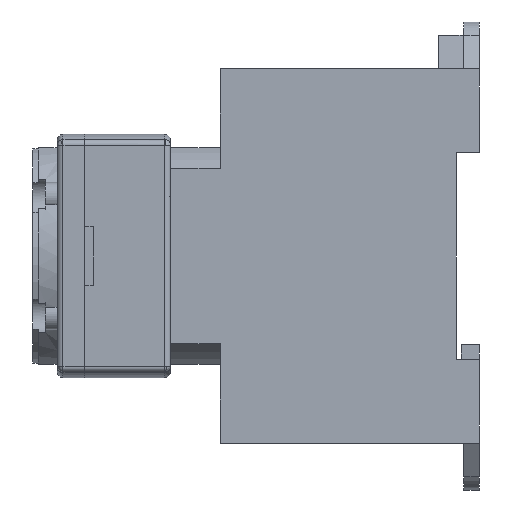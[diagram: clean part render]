
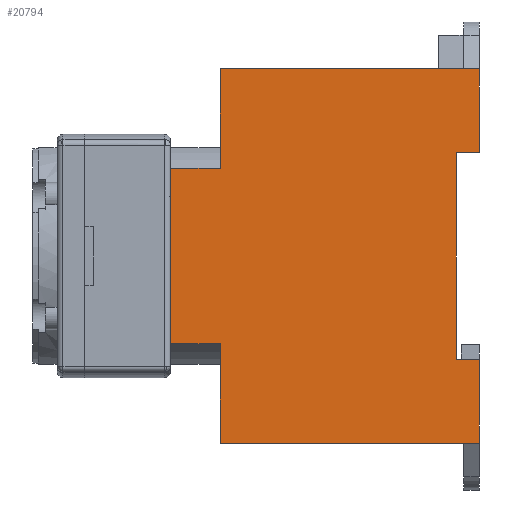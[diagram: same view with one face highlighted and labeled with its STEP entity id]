
A CAD part, left-side view. The second image highlights one B-rep face of the part: STEP entity #20794.
In plain terms, the highlighted planar face has unit normal (-1, 0, 0).
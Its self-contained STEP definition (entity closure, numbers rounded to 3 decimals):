
#1169 = ORIENTED_EDGE ( 'NONE', *, *, #10406, .F. ) ;
#1366 = VECTOR ( 'NONE', #29082, 1000. ) ;
#1668 = ORIENTED_EDGE ( 'NONE', *, *, #23184, .F. ) ;
#2636 = CARTESIAN_POINT ( 'NONE',  ( -24., 44.3, 32. ) ) ;
#3328 = LINE ( 'NONE', #19402, #9773 ) ;
#3335 = CARTESIAN_POINT ( 'NONE',  ( -24., 52.8, -15. ) ) ;
#4092 = CARTESIAN_POINT ( 'NONE',  ( -24., 0., -17.65 ) ) ;
#4868 = VECTOR ( 'NONE', #22422, 1000. ) ;
#5850 = CARTESIAN_POINT ( 'NONE',  ( -24., 44.3, -17.65 ) ) ;
#6578 = LINE ( 'NONE', #22113, #25263 ) ;
#6742 = DIRECTION ( 'NONE',  ( 1., 0., 0. ) ) ;
#6786 = VERTEX_POINT ( 'NONE', #29339 ) ;
#7037 = ORIENTED_EDGE ( 'NONE', *, *, #31616, .F. ) ;
#7297 = EDGE_LOOP ( 'NONE', ( #22907, #10786, #16658, #1668, #7037, #22892, #19574, #14926, #18192, #19597, #18165, #1169 ) ) ;
#7334 = EDGE_CURVE ( 'NONE', #20384, #6786, #29407, .T. ) ;
#7383 = LINE ( 'NONE', #21961, #26070 ) ;
#7641 = AXIS2_PLACEMENT_3D ( 'NONE', #23694, #6742, #23811 ) ;
#7714 = DIRECTION ( 'NONE',  ( 0., -1., 0. ) ) ;
#8288 = VERTEX_POINT ( 'NONE', #24250 ) ;
#8298 = VERTEX_POINT ( 'NONE', #23571 ) ;
#8705 = VERTEX_POINT ( 'NONE', #23839 ) ;
#9276 = DIRECTION ( 'NONE',  ( 0., 0., -1. ) ) ;
#9773 = VECTOR ( 'NONE', #21838, 1000. ) ;
#10174 = CARTESIAN_POINT ( 'NONE',  ( -24., 0., -32. ) ) ;
#10406 = EDGE_CURVE ( 'NONE', #8705, #15689, #3328, .T. ) ;
#10786 = ORIENTED_EDGE ( 'NONE', *, *, #21453, .F. ) ;
#11603 = EDGE_CURVE ( 'NONE', #20743, #8705, #23053, .T. ) ;
#11680 = VERTEX_POINT ( 'NONE', #4092 ) ;
#11891 = VERTEX_POINT ( 'NONE', #10174 ) ;
#12858 = LINE ( 'NONE', #18484, #4868 ) ;
#12859 = LINE ( 'NONE', #18139, #31544 ) ;
#12871 = EDGE_CURVE ( 'NONE', #13708, #8288, #6578, .T. ) ;
#13708 = VERTEX_POINT ( 'NONE', #19146 ) ;
#13955 = DIRECTION ( 'NONE',  ( 0., -1., 0. ) ) ;
#14502 = CARTESIAN_POINT ( 'NONE',  ( -24., 44.3, 32. ) ) ;
#14926 = ORIENTED_EDGE ( 'NONE', *, *, #12871, .F. ) ;
#15650 = DIRECTION ( 'NONE',  ( 0., 0., 1. ) ) ;
#15689 = VERTEX_POINT ( 'NONE', #28781 ) ;
#16575 = DIRECTION ( 'NONE',  ( 0., -1., 0. ) ) ;
#16615 = CARTESIAN_POINT ( 'NONE',  ( -24., 0., -32. ) ) ;
#16658 = ORIENTED_EDGE ( 'NONE', *, *, #7334, .F. ) ;
#16789 = VERTEX_POINT ( 'NONE', #3335 ) ;
#17135 = LINE ( 'NONE', #5850, #31605 ) ;
#17465 = EDGE_CURVE ( 'NONE', #15689, #11680, #17135, .T. ) ;
#18139 = CARTESIAN_POINT ( 'NONE',  ( -24., 52.8, -32. ) ) ;
#18165 = ORIENTED_EDGE ( 'NONE', *, *, #17465, .F. ) ;
#18192 = ORIENTED_EDGE ( 'NONE', *, *, #30511, .F. ) ;
#18484 = CARTESIAN_POINT ( 'NONE',  ( -24., 0., -32. ) ) ;
#18670 = DIRECTION ( 'NONE',  ( 0., 1., 0. ) ) ;
#18961 = LINE ( 'NONE', #16615, #25447 ) ;
#19069 = EDGE_CURVE ( 'NONE', #11680, #11891, #12858, .T. ) ;
#19146 = CARTESIAN_POINT ( 'NONE',  ( -24., 44.3, -32. ) ) ;
#19402 = CARTESIAN_POINT ( 'NONE',  ( -24., 4., -32. ) ) ;
#19527 = DIRECTION ( 'NONE',  ( 0., 1., 0. ) ) ;
#19574 = ORIENTED_EDGE ( 'NONE', *, *, #21343, .F. ) ;
#19597 = ORIENTED_EDGE ( 'NONE', *, *, #19069, .F. ) ;
#20384 = VERTEX_POINT ( 'NONE', #2636 ) ;
#20613 = VECTOR ( 'NONE', #13955, 1000. ) ;
#20743 = VERTEX_POINT ( 'NONE', #21148 ) ;
#20794 = ADVANCED_FACE ( 'NONE', ( #28540 ), #31056, .F. ) ;
#20819 = LINE ( 'NONE', #26590, #1366 ) ;
#21148 = CARTESIAN_POINT ( 'NONE',  ( -24., 0., 17.65 ) ) ;
#21200 = EDGE_CURVE ( 'NONE', #16789, #8298, #12859, .T. ) ;
#21239 = VECTOR ( 'NONE', #18670, 1000. ) ;
#21343 = EDGE_CURVE ( 'NONE', #8288, #16789, #28508, .T. ) ;
#21453 = EDGE_CURVE ( 'NONE', #6786, #20743, #18961, .T. ) ;
#21838 = DIRECTION ( 'NONE',  ( 0., 0., -1. ) ) ;
#21961 = CARTESIAN_POINT ( 'NONE',  ( -24., 44.3, -32. ) ) ;
#22113 = CARTESIAN_POINT ( 'NONE',  ( -24., 44.3, -32. ) ) ;
#22219 = VERTEX_POINT ( 'NONE', #29494 ) ;
#22330 = CARTESIAN_POINT ( 'NONE',  ( -24., 44.3, 15. ) ) ;
#22422 = DIRECTION ( 'NONE',  ( 0., 0., -1. ) ) ;
#22892 = ORIENTED_EDGE ( 'NONE', *, *, #21200, .F. ) ;
#22907 = ORIENTED_EDGE ( 'NONE', *, *, #11603, .F. ) ;
#23053 = LINE ( 'NONE', #23271, #28796 ) ;
#23184 = EDGE_CURVE ( 'NONE', #22219, #20384, #20819, .T. ) ;
#23271 = CARTESIAN_POINT ( 'NONE',  ( -24., 44.3, 17.65 ) ) ;
#23571 = CARTESIAN_POINT ( 'NONE',  ( -24., 52.8, 15. ) ) ;
#23694 = CARTESIAN_POINT ( 'NONE',  ( -24., 44.3, -32. ) ) ;
#23811 = DIRECTION ( 'NONE',  ( 0., 0., -1. ) ) ;
#23839 = CARTESIAN_POINT ( 'NONE',  ( -24., 4., 17.65 ) ) ;
#23951 = DIRECTION ( 'NONE',  ( 0., 1., 0. ) ) ;
#24250 = CARTESIAN_POINT ( 'NONE',  ( -24., 44.3, -15. ) ) ;
#25263 = VECTOR ( 'NONE', #28221, 1000. ) ;
#25447 = VECTOR ( 'NONE', #9276, 1000. ) ;
#26070 = VECTOR ( 'NONE', #19527, 1000. ) ;
#26590 = CARTESIAN_POINT ( 'NONE',  ( -24., 44.3, -32. ) ) ;
#28221 = DIRECTION ( 'NONE',  ( 0., 0., 1. ) ) ;
#28508 = LINE ( 'NONE', #30809, #21239 ) ;
#28540 = FACE_OUTER_BOUND ( 'NONE', #7297, .T. ) ;
#28679 = LINE ( 'NONE', #22330, #29459 ) ;
#28781 = CARTESIAN_POINT ( 'NONE',  ( -24., 4., -17.65 ) ) ;
#28796 = VECTOR ( 'NONE', #23951, 1000. ) ;
#29082 = DIRECTION ( 'NONE',  ( 0., 0., 1. ) ) ;
#29339 = CARTESIAN_POINT ( 'NONE',  ( -24., 0., 32. ) ) ;
#29407 = LINE ( 'NONE', #14502, #20613 ) ;
#29459 = VECTOR ( 'NONE', #7714, 1000. ) ;
#29494 = CARTESIAN_POINT ( 'NONE',  ( -24., 44.3, 15. ) ) ;
#30511 = EDGE_CURVE ( 'NONE', #11891, #13708, #7383, .T. ) ;
#30809 = CARTESIAN_POINT ( 'NONE',  ( -24., 44.3, -15. ) ) ;
#31056 = PLANE ( 'NONE',  #7641 ) ;
#31544 = VECTOR ( 'NONE', #15650, 1000. ) ;
#31605 = VECTOR ( 'NONE', #16575, 1000. ) ;
#31616 = EDGE_CURVE ( 'NONE', #8298, #22219, #28679, .T. ) ;
